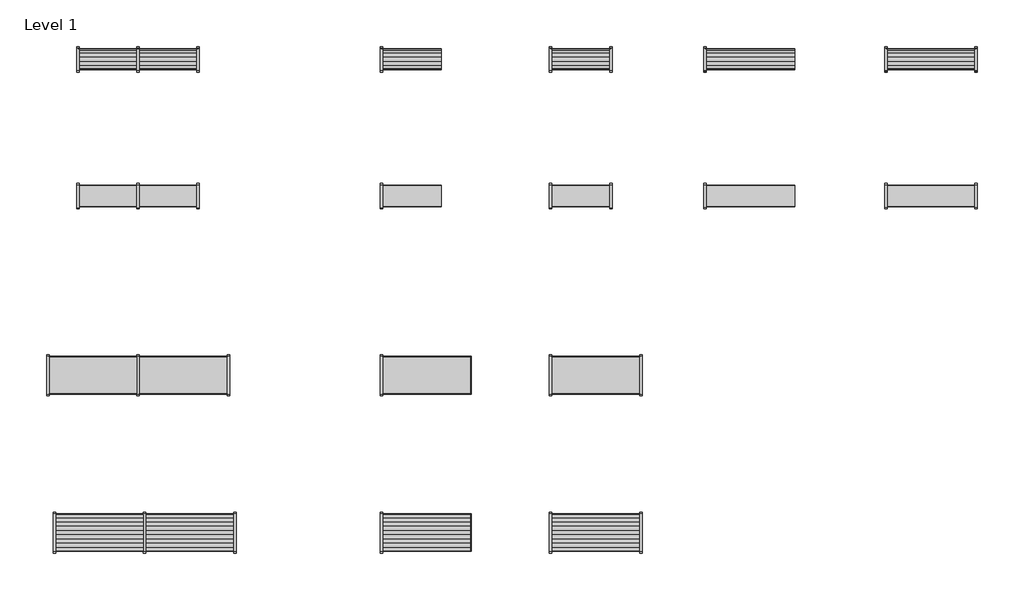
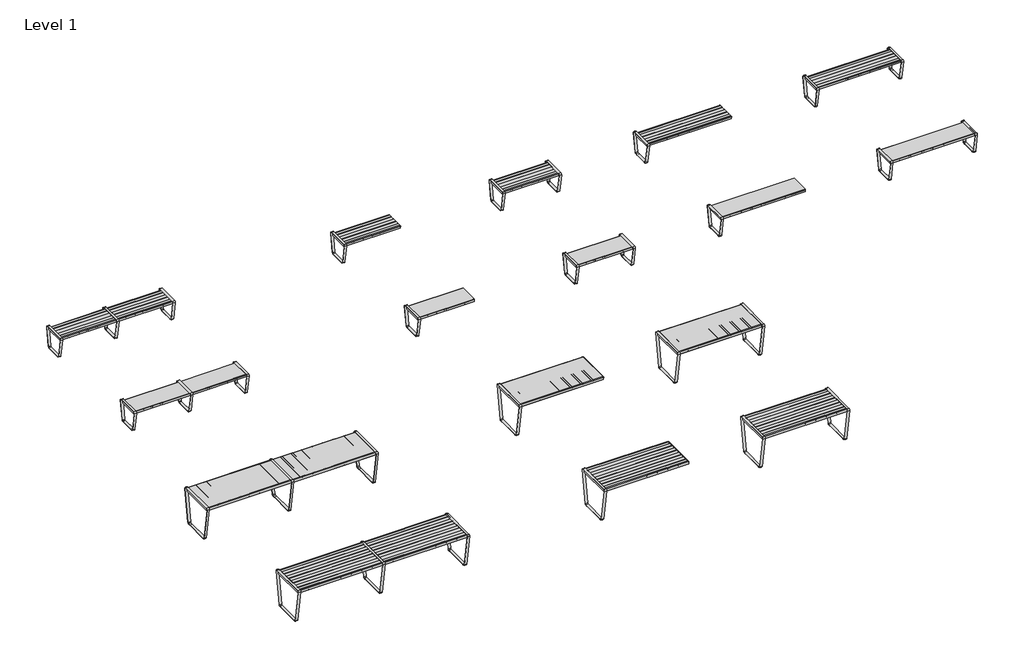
# One storey: 20 furniture elements.
"""IFC4 building model written with IfcOpenShell, lengths in millimetres."""

from ifc_helpers import new_model, si_unit, origin, place, context, project, spatial, transform, mapped, element, save
from components import teb4ah_dc728d43, teb4as_706bcdf3, teb4h_23ed36cb, teb4s_c4fabae1, teb6ah_ea40309d, teb6as_fcf579d4, teb6h_ca488abb, teb6s_661dd856, tet6ah_e9848967, tet6as_eda60ba4, tet6h_96331e00, tet6s_bc5166f8

model = new_model("IFC4")

# Units and contexts
model_context = context("Model", 3, world=origin())
ifc_project = project(units=[si_unit("LENGTHUNIT", "METRE", prefix="MILLI")], contexts=[model_context])

# Site, building, storey
site = spatial("IfcSite", under=ifc_project)
building = spatial("IfcBuilding", under=site)
storey = spatial("IfcBuildingStorey", under=building, Name="Level 1", Elevation=0.0)

# Furniture
placement = place(None, origin())
teb4ah_shape = teb4ah_dc728d43(model_context)
element("IfcFurniture", 1, ObjectType="Stance_HC-Terrace-Straight_Bench_HDPE : TEB4AH", at=placement, inside=storey, context=model_context, shape_type="MappedRepresentation", body=[
    mapped(teb4ah_shape, transform((-5607.4192713, 20367.3591991, 0.0), x_axis=(1.0, 0.0, 0.0), y_axis=(0.0, 1.0, 0.0), z_axis=(0.0, 0.0, 1.0))),
])
element("IfcFurniture", 2, ObjectType="Stance_HC-Terrace-Straight_Bench_HDPE : TEB4AH", at=placement, inside=storey, context=model_context, shape_type="MappedRepresentation", body=[
    mapped(teb4ah_shape, transform((-11756.9538924, 20367.3591991, 0.0), x_axis=(1.0, 0.0, 0.0), y_axis=(0.0, 1.0, 0.0), z_axis=(0.0, 0.0, 1.0))),
])
teb4as_shape = teb4as_706bcdf3(model_context)
element("IfcFurniture", 3, ObjectType="Stance_HC-Terrace-Straight_Bench_Steel : TEB4AS", at=placement, inside=storey, context=model_context, shape_type="MappedRepresentation", body=[
    mapped(teb4as_shape, transform((-5607.4192713, 17595.837657, 0.0), x_axis=(1.0, 0.0, 0.0), y_axis=(0.0, 1.0, 0.0), z_axis=(0.0, 0.0, 1.0))),
])
element("IfcFurniture", 4, ObjectType="Stance_HC-Terrace-Straight_Bench_Steel : TEB4AS", at=placement, inside=storey, context=model_context, shape_type="MappedRepresentation", body=[
    mapped(teb4as_shape, transform((-11756.9538924, 17595.837657, 0.0), x_axis=(1.0, 0.0, 0.0), y_axis=(0.0, 1.0, 0.0), z_axis=(0.0, 0.0, 1.0))),
])
teb4h_shape = teb4h_23ed36cb(model_context)
element("IfcFurniture", 5, ObjectType="Stance_HC-Terrace-Straight_Bench_HDPE : TEB4H", at=placement, inside=storey, context=model_context, shape_type="MappedRepresentation", body=[
    mapped(teb4h_shape, transform((-2175.113623, 20367.3591991, 0.0), x_axis=(1.0, 0.0, 0.0), y_axis=(0.0, 1.0, 0.0), z_axis=(0.0, 0.0, 1.0))),
])
element("IfcFurniture", 6, ObjectType="Stance_HC-Terrace-Straight_Bench_HDPE : TEB4H", at=placement, inside=storey, context=model_context, shape_type="MappedRepresentation", body=[
    mapped(teb4h_shape, transform((-10537.7538924, 20367.3591991, 0.0), x_axis=(1.0, 0.0, 0.0), y_axis=(0.0, 1.0, 0.0), z_axis=(0.0, 0.0, 1.0))),
])
teb4s_shape = teb4s_c4fabae1(model_context)
element("IfcFurniture", 7, ObjectType="Stance_HC-Terrace-Straight_Bench_Steel : TEB4S", at=placement, inside=storey, context=model_context, shape_type="MappedRepresentation", body=[
    mapped(teb4s_shape, transform((-2175.113623, 17595.837657, 0.0), x_axis=(1.0, 0.0, 0.0), y_axis=(0.0, 1.0, 0.0), z_axis=(0.0, 0.0, 1.0))),
])
element("IfcFurniture", 8, ObjectType="Stance_HC-Terrace-Straight_Bench_Steel : TEB4S", at=placement, inside=storey, context=model_context, shape_type="MappedRepresentation", body=[
    mapped(teb4s_shape, transform((-10537.7538924, 17595.837657, 0.0), x_axis=(1.0, 0.0, 0.0), y_axis=(0.0, 1.0, 0.0), z_axis=(0.0, 0.0, 1.0))),
])
teb6ah_shape = teb6ah_ea40309d(model_context)
element("IfcFurniture", 9, ObjectType="Stance_HC-Terrace-Straight_Bench_HDPE : TEB6AH", at=placement, inside=storey, context=model_context, shape_type="MappedRepresentation", body=[
    mapped(teb6ah_shape, transform((950.705297, 20367.3591991, 0.0), x_axis=(1.0, 0.0, 0.0), y_axis=(0.0, 1.0, 0.0), z_axis=(0.0, 0.0, 1.0))),
])
teb6as_shape = teb6as_fcf579d4(model_context)
element("IfcFurniture", 10, ObjectType="Stance_HC-Terrace-Straight_Bench_Steel : TEB6AS", at=placement, inside=storey, context=model_context, shape_type="MappedRepresentation", body=[
    mapped(teb6as_shape, transform((950.705297, 17595.837657, 0.0), x_axis=(1.0, 0.0, 0.0), y_axis=(0.0, 1.0, 0.0), z_axis=(0.0, 0.0, 1.0))),
])
teb6h_shape = teb6h_ca488abb(model_context)
element("IfcFurniture", 11, ObjectType="Stance_HC-Terrace-Straight_Bench_HDPE : TEB6H", at=placement, inside=storey, context=model_context, shape_type="MappedRepresentation", body=[
    mapped(teb6h_shape, transform((4621.8506726, 20367.3591991, 0.0), x_axis=(1.0, 0.0, 0.0), y_axis=(0.0, 1.0, 0.0), z_axis=(0.0, 0.0, 1.0))),
])
teb6s_shape = teb6s_661dd856(model_context)
element("IfcFurniture", 12, ObjectType="Stance_HC-Terrace-Straight_Bench_Steel : TEB6S", at=placement, inside=storey, context=model_context, shape_type="MappedRepresentation", body=[
    mapped(teb6s_shape, transform((4621.8506726, 17595.837657, 0.0), x_axis=(1.0, 0.0, 0.0), y_axis=(0.0, 1.0, 0.0), z_axis=(0.0, 0.0, 1.0))),
])
tet6ah_shape = tet6ah_e9848967(model_context)
element("IfcFurniture", 13, ObjectType="Stance_HC-Terrace-Table_HDPE : TET6AH", at=placement, inside=storey, context=model_context, shape_type="MappedRepresentation", body=[
    mapped(tet6ah_shape, transform((-5607.4192713, 10423.0526531, 0.0), x_axis=(1.0, 0.0, 0.0), y_axis=(0.0, 1.0, 0.0), z_axis=(0.0, 0.0, 1.0))),
])
element("IfcFurniture", 14, ObjectType="Stance_HC-Terrace-Table_HDPE : TET6AH", at=placement, inside=storey, context=model_context, shape_type="MappedRepresentation", body=[
    mapped(tet6ah_shape, transform((-12233.513623, 10423.0526531, 0.0), x_axis=(1.0, 0.0, 0.0), y_axis=(0.0, 1.0, 0.0), z_axis=(0.0, 0.0, 1.0))),
])
tet6as_shape = tet6as_eda60ba4(model_context)
element("IfcFurniture", 15, ObjectType="Stance_HC-Terrace-Table_ Steel : TET6AS", at=placement, inside=storey, context=model_context, shape_type="MappedRepresentation", body=[
    mapped(tet6as_shape, transform((-5607.4192713, 13613.6566458, 0.0), x_axis=(1.0, 0.0, 0.0), y_axis=(0.0, 1.0, 0.0), z_axis=(0.0, 0.0, 1.0))),
])
element("IfcFurniture", 16, ObjectType="Stance_HC-Terrace-Table_ Steel : TET6AS", at=placement, inside=storey, context=model_context, shape_type="MappedRepresentation", body=[
    mapped(tet6as_shape, transform((-12366.5538924, 13613.6566458, 0.0), x_axis=(1.0, 0.0, 0.0), y_axis=(0.0, 1.0, 0.0), z_axis=(0.0, 0.0, 1.0))),
])
tet6h_shape = tet6h_96331e00(model_context)
element("IfcFurniture", 17, ObjectType="Stance_HC-Terrace-Table_HDPE : TET6H", at=placement, inside=storey, context=model_context, shape_type="MappedRepresentation", body=[
    mapped(tet6h_shape, transform((-2175.113623, 10423.3653693, 0.0), x_axis=(1.0, 0.0, 0.0), y_axis=(0.0, 1.0, 0.0), z_axis=(0.0, 0.0, 1.0))),
])
element("IfcFurniture", 18, ObjectType="Stance_HC-Terrace-Table_HDPE : TET6H", at=placement, inside=storey, context=model_context, shape_type="MappedRepresentation", body=[
    mapped(tet6h_shape, transform((-10404.713623, 10423.0526531, 0.0), x_axis=(1.0, 0.0, 0.0), y_axis=(0.0, 1.0, 0.0), z_axis=(0.0, 0.0, 1.0))),
])
tet6s_shape = tet6s_bc5166f8(model_context)
element("IfcFurniture", 19, ObjectType="Stance_HC-Terrace-Table_ Steel : TET6S", at=placement, inside=storey, context=model_context, shape_type="MappedRepresentation", body=[
    mapped(tet6s_shape, transform((-2175.113623, 13613.6566458, 0.0), x_axis=(1.0, 0.0, 0.0), y_axis=(0.0, 1.0, 0.0), z_axis=(0.0, 0.0, 1.0))),
])
element("IfcFurniture", 20, ObjectType="Stance_HC-Terrace-Table_ Steel : TET6S", at=placement, inside=storey, context=model_context, shape_type="MappedRepresentation", body=[
    mapped(tet6s_shape, transform((-10537.7538924, 13613.6566458, 0.0), x_axis=(1.0, 0.0, 0.0), y_axis=(0.0, 1.0, 0.0), z_axis=(0.0, 0.0, 1.0))),
])

save(model, "model.ifc")
